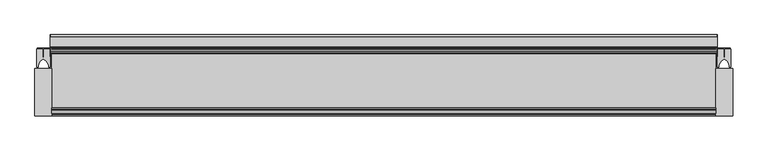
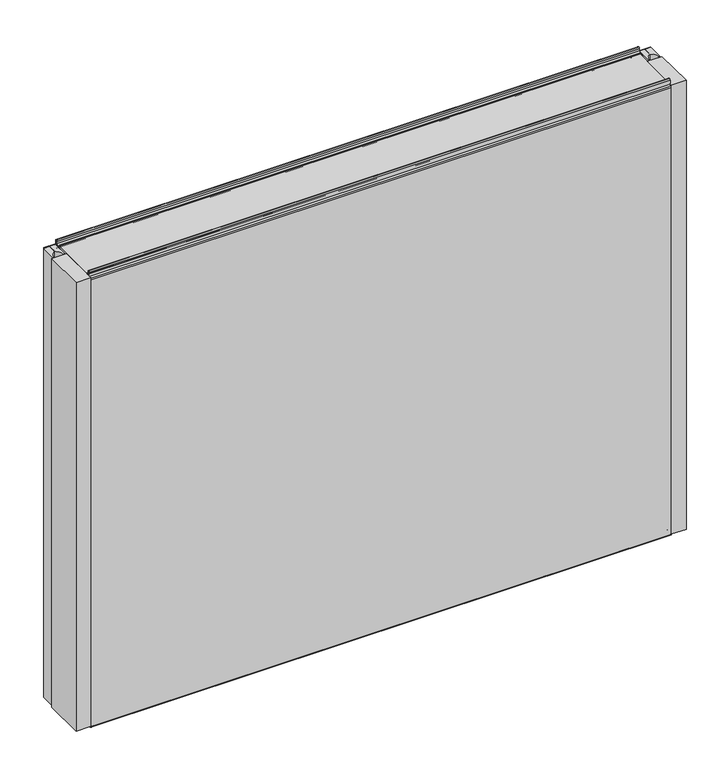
"""IFC4 building model written with IfcOpenShell, lengths in millimetres: plate geometry, Fronttop : Fronttop 150/1000."""

from ifc_helpers import new_model, si_unit, point, frame, frame_2d, origin, origin_with_axes, place, context, project, spatial, polyline, circle_curve, trimmed, segment, composite_curve, outline, extrude, source, transform, mapped, element, save
from ifc_brep_helpers import plane_surface, cylinder_surface, revolved_surface, advanced_brep


def plate_292bbd3f(model_context):
    return source(origin(), model_context, "Body", "SolidModel", [
        advanced_brep(
        [(-614.0, 124.0, 1008.0), (-614.0, 121.0, 1008.0), (-614.0, 121.0, 1004.0), (-614.0, 117.0, 1000.0), (-614.0, 115.0, 1000.0), (-614.0, 115.0, 1001.0), (-614.0, 117.0, 1001.0), (-614.0, 120.0, 1004.0), (-614.0, 120.0, 1008.0), (-614.0, 125.0, 1008.0), (-614.0, 125.0, 1000.0), (-614.0, 124.0, 1000.0), (614.0, 125.0, 1008.0), (614.0, 120.0, 1008.0), (614.0, 120.0, 1004.0), (614.0, 117.0, 1001.0), (614.0, 115.0, 1001.0), (614.0, 115.0, 1000.0), (614.0, 117.0, 1000.0), (614.0, 121.0, 1004.0), (614.0, 121.0, 1008.0), (614.0, 124.0, 1008.0), (614.0, 124.0, 1000.0), (614.0, 125.0, 1000.0), (-614.0, 117.0, 2.0), (614.0, 117.0, 2.0), (614.0, 115.0, 2.0), (-614.0, 115.0, 2.0), (-614.0, 119.0, 4.0), (614.0, 119.0, 4.0), (-614.0, 119.0, 8.0), (614.0, 119.0, 8.0), (-614.0, 126.0, 8.0), (614.0, 126.0, 8.0), (-614.0, 126.0, 0.0), (614.0, 126.0, 0.0), (-614.0, 129.0, -3.0), (614.0, 129.0, -3.0), (-614.0, 125.0, -3.0), (-615.0, 125.0, -3.0), (-615.0, 147.0, -3.0), (-614.0, 147.0, -3.0), (614.0, 147.0, -3.0), (615.0, 147.0, -3.0), (615.0, 125.0, -3.0), (614.0, 125.0, -3.0), (-614.0, 150.0, 0.0), (614.0, 150.0, 0.0), (-615.0, 150.0, 0.0), (-615.0, 150.0, 969.0), (-614.0, 150.0, 969.0), (614.0, 150.0, 969.0), (615.0, 150.0, 969.0), (615.0, 150.0, 0.0), (-614.0, 147.0, 972.0), (614.0, 147.0, 972.0), (-615.0, 147.0, 972.0), (-615.0, 128.0, 972.0), (-614.0, 128.0, 972.0), (614.0, 128.0, 972.0), (615.0, 128.0, 972.0), (615.0, 147.0, 972.0), (-614.0, 125.0, 975.0), (614.0, 125.0, 975.0), (-615.0, 125.0, 975.0), (-615.0, 125.0, 1000.0), (615.0, 125.0, 1000.0), (615.0, 125.0, 975.0), (-614.0, 124.0, 975.0), (614.0, 124.0, 975.0), (-614.0, 128.0, 971.0), (614.0, 128.0, 971.0), (-614.0, 147.0, 971.0), (614.0, 147.0, 971.0), (-614.0, 149.0, 969.0), (614.0, 149.0, 969.0), (-614.0, 149.0, 0.0), (614.0, 149.0, 0.0), (-614.0, 147.0, -2.0), (614.0, 147.0, -2.0), (-614.0, 129.0, -2.0), (614.0, 129.0, -2.0), (-614.0, 127.0, 0.0), (614.0, 127.0, 0.0), (-614.0, 127.0, 8.0), (614.0, 127.0, 8.0), (-614.0, 118.0, 8.0), (614.0, 118.0, 8.0), (-614.0, 118.0, 4.0), (614.0, 118.0, 4.0), (-614.0, 117.0, 3.0), (614.0, 117.0, 3.0), (-614.0, 115.0, 3.0), (614.0, 115.0, 3.0), (615.0, 110.0, 1000.0), (615.0, 110.0, 0.0), (615.0, 125.0, 0.0), (614.0, 125.0, 0.0), (614.0, 110.0, 0.0), (614.0, 110.0, 1000.0), (-615.0, 125.0, 0.0), (-615.0, 110.0, 0.0), (-615.0, 110.0, 1000.0), (-614.0, 110.0, 1000.0), (-614.0, 110.0, 0.0), (-614.0, 125.0, 0.0)],
        [
            (0, 1, circle_curve(frame((-614.0, 122.5, 1008.0), z_axis=(1.0, 0.0, 0.0), x_axis=(0.0, -1.0, 0.0)), 1.5)),
            (1, 2),
            (2, 3, circle_curve(frame((-614.0, 117.0, 1004.0), z_axis=(-1.0, 0.0, 0.0), x_axis=(0.0, -1.0, 0.0)), 4.0)),
            (3, 4),
            (4, 5),
            (5, 6),
            (6, 7, circle_curve(frame((-614.0, 117.0, 1004.0), z_axis=(1.0, 0.0, 0.0), x_axis=(0.0, -1.0, 0.0)), 3.0)),
            (7, 8),
            (8, 9, circle_curve(frame((-614.0, 122.5, 1008.0), z_axis=(-1.0, 0.0, 0.0), x_axis=(0.0, -1.0, 0.0)), 2.5)),
            (9, 10),
            (10, 11),
            (11, 0),
            (12, 13, circle_curve(frame((614.0, 122.5, 1008.0), z_axis=(1.0, 0.0, 0.0), x_axis=(0.0, -1.0, 0.0)), 2.5)),
            (13, 14),
            (14, 15, circle_curve(frame((614.0, 117.0, 1004.0), z_axis=(-1.0, 0.0, 0.0), x_axis=(0.0, -1.0, 0.0)), 3.0)),
            (15, 16),
            (16, 17),
            (17, 18),
            (18, 19, circle_curve(frame((614.0, 117.0, 1004.0), z_axis=(1.0, 0.0, 0.0), x_axis=(0.0, -1.0, 0.0)), 4.0)),
            (19, 20),
            (20, 21, circle_curve(frame((614.0, 122.5, 1008.0), z_axis=(-1.0, 0.0, 0.0), x_axis=(0.0, -1.0, 0.0)), 1.5)),
            (21, 22),
            (22, 23),
            (23, 12),
            (24, 25),
            (25, 26),
            (26, 27),
            (27, 24),
            (24, 28, circle_curve(frame((-614.0, 117.0, 4.0), z_axis=(1.0, 0.0, 0.0), x_axis=(0.0, -1.0, 0.0)), 2.0)),
            (28, 29),
            (29, 25, circle_curve(frame((614.0, 117.0, 4.0), z_axis=(-1.0, 0.0, 0.0), x_axis=(0.0, -1.0, 0.0)), 2.0)),
            (28, 30),
            (30, 31),
            (31, 29),
            (30, 32, circle_curve(frame((-614.0, 122.5, 8.0), z_axis=(-1.0, 0.0, 0.0), x_axis=(0.0, -1.0, 0.0)), 3.5)),
            (32, 33),
            (33, 31, circle_curve(frame((614.0, 122.5, 8.0), z_axis=(1.0, 0.0, 0.0), x_axis=(0.0, -1.0, 0.0)), 3.5)),
            (32, 34),
            (34, 35),
            (35, 33),
            (34, 36, circle_curve(frame((-614.0, 129.0, 0.0), z_axis=(1.0, 0.0, 0.0), x_axis=(0.0, -1.0, 0.0)), 3.0)),
            (36, 37),
            (37, 35, circle_curve(frame((614.0, 129.0, 0.0), z_axis=(-1.0, 0.0, 0.0), x_axis=(0.0, -1.0, 0.0)), 3.0)),
            (36, 38),
            (38, 39),
            (39, 40),
            (40, 41),
            (41, 42),
            (42, 43),
            (43, 44),
            (44, 45),
            (45, 37),
            (41, 46, circle_curve(frame((-614.0, 147.0, 0.0), z_axis=(1.0, 0.0, 0.0), x_axis=(0.0, -1.0, 0.0)), 3.0)),
            (46, 47),
            (47, 42, circle_curve(frame((614.0, 147.0, 0.0), z_axis=(-1.0, 0.0, 0.0), x_axis=(0.0, -1.0, 0.0)), 3.0)),
            (46, 48),
            (48, 49),
            (49, 50),
            (50, 51),
            (51, 52),
            (52, 53),
            (53, 47),
            (50, 54, circle_curve(frame((-614.0, 147.0, 969.0), z_axis=(1.0, 0.0, 0.0), x_axis=(0.0, -1.0, 0.0)), 3.0)),
            (54, 55),
            (55, 51, circle_curve(frame((614.0, 147.0, 969.0), z_axis=(-1.0, 0.0, 0.0), x_axis=(0.0, -1.0, 0.0)), 3.0)),
            (54, 56),
            (56, 57),
            (57, 58),
            (58, 59),
            (59, 60),
            (60, 61),
            (61, 55),
            (58, 62, circle_curve(frame((-614.0, 128.0, 975.0), z_axis=(-1.0, 0.0, 0.0), x_axis=(0.0, -1.0, 0.0)), 3.0)),
            (62, 63),
            (63, 59, circle_curve(frame((614.0, 128.0, 975.0), z_axis=(1.0, 0.0, 0.0), x_axis=(0.0, -1.0, 0.0)), 3.0)),
            (62, 64),
            (64, 65),
            (65, 10),
            (9, 12),
            (23, 66),
            (66, 67),
            (67, 63),
            (8, 13),
            (7, 14),
            (6, 15),
            (5, 16),
            (4, 17),
            (4, 3),
            (3, 18),
            (18, 17),
            (2, 19),
            (1, 20),
            (0, 21),
            (11, 68),
            (68, 69),
            (69, 22),
            (68, 70, circle_curve(frame((-614.0, 128.0, 975.0), z_axis=(1.0, 0.0, 0.0), x_axis=(0.0, -1.0, 0.0)), 4.0)),
            (70, 71),
            (71, 69, circle_curve(frame((614.0, 128.0, 975.0), z_axis=(-1.0, 0.0, 0.0), x_axis=(0.0, -1.0, 0.0)), 4.0)),
            (70, 72),
            (72, 73),
            (73, 71),
            (72, 74, circle_curve(frame((-614.0, 147.0, 969.0), z_axis=(-1.0, 0.0, 0.0), x_axis=(0.0, -1.0, 0.0)), 2.0)),
            (74, 75),
            (75, 73, circle_curve(frame((614.0, 147.0, 969.0), z_axis=(1.0, 0.0, 0.0), x_axis=(0.0, -1.0, 0.0)), 2.0)),
            (74, 76),
            (76, 77),
            (77, 75),
            (76, 78, circle_curve(frame((-614.0, 147.0, 0.0), z_axis=(-1.0, 0.0, 0.0), x_axis=(0.0, -1.0, 0.0)), 2.0)),
            (78, 79),
            (79, 77, circle_curve(frame((614.0, 147.0, 0.0), z_axis=(1.0, 0.0, 0.0), x_axis=(0.0, -1.0, 0.0)), 2.0)),
            (78, 80),
            (80, 81),
            (81, 79),
            (80, 82, circle_curve(frame((-614.0, 129.0, 0.0), z_axis=(-1.0, 0.0, 0.0), x_axis=(0.0, -1.0, 0.0)), 2.0)),
            (82, 83),
            (83, 81, circle_curve(frame((614.0, 129.0, 0.0), z_axis=(1.0, 0.0, 0.0), x_axis=(0.0, -1.0, 0.0)), 2.0)),
            (82, 84),
            (84, 85),
            (85, 83),
            (84, 86, circle_curve(frame((-614.0, 122.5, 8.0), z_axis=(1.0, 0.0, 0.0), x_axis=(0.0, -1.0, 0.0)), 4.5)),
            (86, 87),
            (87, 85, circle_curve(frame((614.0, 122.5, 8.0), z_axis=(-1.0, 0.0, 0.0), x_axis=(0.0, -1.0, 0.0)), 4.5)),
            (86, 88),
            (88, 89),
            (89, 87),
            (88, 90, circle_curve(frame((-614.0, 117.0, 4.0), z_axis=(-1.0, 0.0, 0.0), x_axis=(0.0, -1.0, 0.0)), 1.0)),
            (90, 91),
            (91, 89, circle_curve(frame((614.0, 117.0, 4.0), z_axis=(1.0, 0.0, 0.0), x_axis=(0.0, -1.0, 0.0)), 1.0)),
            (90, 92),
            (92, 93),
            (93, 91),
            (26, 93),
            (92, 27),
            (66, 94),
            (94, 95),
            (95, 96),
            (96, 44),
            (43, 53, circle_curve(frame((615.0, 147.0, 0.0), z_axis=(1.0, 0.0, 0.0), x_axis=(0.0, 1.0, 0.0)), 3.0)),
            (52, 61, circle_curve(frame((615.0, 147.0, 969.0), z_axis=(1.0, 0.0, 0.0), x_axis=(0.0, 1.0, 0.0)), 3.0)),
            (60, 67, circle_curve(frame((615.0, 128.0, 975.0), z_axis=(-1.0, 0.0, 0.0), x_axis=(0.0, 1.0, 0.0)), 3.0)),
            (45, 97),
            (97, 98),
            (98, 99),
            (99, 17),
            (18, 22),
            (99, 94),
            (98, 95),
            (97, 96),
            (64, 57, circle_curve(frame((-615.0, 128.0, 975.0), z_axis=(1.0, 0.0, 0.0), x_axis=(0.0, 1.0, 0.0)), 3.0)),
            (56, 49, circle_curve(frame((-615.0, 147.0, 969.0), z_axis=(-1.0, 0.0, 0.0), x_axis=(0.0, 1.0, 0.0)), 3.0)),
            (48, 40, circle_curve(frame((-615.0, 147.0, 0.0), z_axis=(-1.0, 0.0, 0.0), x_axis=(0.0, 1.0, 0.0)), 3.0)),
            (39, 100),
            (100, 101),
            (101, 102),
            (102, 65),
            (103, 104),
            (104, 105),
            (105, 38),
            (11, 3),
            (4, 103),
            (102, 103),
            (101, 104),
            (100, 105),
        ],
        [
            plane_surface(frame((-614.0, 0.0, 0.0), z_axis=(-1.0, 0.0, 0.0), x_axis=(0.0, 0.0, 1.0))),
            plane_surface(frame((614.0, 0.0, 0.0), z_axis=(1.0, 0.0, 0.0), x_axis=(0.0, 0.0, 1.0))),
            plane_surface(frame((-614.0, 117.0, 2.0), z_axis=(0.0, 0.0, -1.0), x_axis=(1.0, 0.0, 0.0))),
            cylinder_surface(frame((-614.0, 117.0, 4.0), z_axis=(-1.0, 0.0, 0.0), x_axis=(0.0, -1.0, 0.0)), 2.0),
            plane_surface(frame((-614.0, 119.0, 8.0), z_axis=(0.0, 1.0, 0.0), x_axis=(1.0, 0.0, 0.0))),
            revolved_surface(polyline([(614.0, 119.0, 8.0), (-614.0, 119.0, 8.0)]), (-614.0, 122.5, 8.0), (1.0, 0.0, 0.0)),
            plane_surface(frame((-614.0, 126.0, 0.0), z_axis=(0.0, -1.0, 0.0), x_axis=(1.0, 0.0, 0.0))),
            cylinder_surface(frame((-614.0, 129.0, 0.0), z_axis=(-1.0, 0.0, 0.0), x_axis=(0.0, -1.0, 0.0)), 3.0),
            plane_surface(frame((-614.0, 147.0, -3.0), z_axis=(0.0, 0.0, -1.0), x_axis=(1.0, 0.0, 0.0))),
            cylinder_surface(frame((-614.0, 147.0, 0.0), z_axis=(-1.0, 0.0, 0.0), x_axis=(0.0, -1.0, 0.0)), 3.0),
            plane_surface(frame((-614.0, 150.0, 969.0), z_axis=(0.0, 1.0, 0.0), x_axis=(1.0, 0.0, 0.0))),
            cylinder_surface(frame((-614.0, 147.0, 969.0), z_axis=(-1.0, 0.0, 0.0), x_axis=(0.0, -1.0, 0.0)), 3.0),
            plane_surface(frame((-614.0, 128.0, 972.0), z_axis=(0.0, 0.0, 1.0), x_axis=(1.0, 0.0, 0.0))),
            revolved_surface(polyline([(614.0, 125.0, 975.0), (-614.0, 125.0, 975.0)]), (-614.0, 128.0, 975.0), (1.0, 0.0, 0.0)),
            plane_surface(frame((-614.0, 125.0, 1008.0), z_axis=(0.0, 1.0, 0.0), x_axis=(1.0, 0.0, 0.0))),
            cylinder_surface(frame((-614.0, 122.5, 1008.0), z_axis=(-1.0, 0.0, 0.0), x_axis=(0.0, -1.0, 0.0)), 2.5),
            plane_surface(frame((-614.0, 120.0, 1004.0), z_axis=(0.0, -1.0, 0.0), x_axis=(1.0, 0.0, 0.0))),
            revolved_surface(polyline([(614.0, 114.0, 1004.0), (-614.0, 114.0, 1004.0)]), (-614.0, 117.0, 1004.0), (1.0, 0.0, 0.0)),
            plane_surface(frame((-614.0, 115.0, 1001.0), z_axis=(0.0, 0.0, 1.0), x_axis=(1.0, 0.0, 0.0))),
            plane_surface(frame((-614.0, 115.0, 1000.0), z_axis=(0.0, -1.0, 0.0), x_axis=(1.0, 0.0, 0.0))),
            plane_surface(frame((-614.0, 117.0, 1000.0), z_axis=(0.0, 0.0, -1.0), x_axis=(1.0, 0.0, 0.0))),
            cylinder_surface(frame((-614.0, 117.0, 1004.0), z_axis=(-1.0, 0.0, 0.0), x_axis=(0.0, -1.0, 0.0)), 4.0),
            plane_surface(frame((-614.0, 121.0, 1008.0), z_axis=(0.0, 1.0, 0.0), x_axis=(1.0, 0.0, 0.0))),
            revolved_surface(polyline([(614.0, 121.0, 1008.0), (-614.0, 121.0, 1008.0)]), (-614.0, 122.5, 1008.0), (1.0, 0.0, 0.0)),
            plane_surface(frame((-614.0, 124.0, 975.0), z_axis=(0.0, -1.0, 0.0), x_axis=(1.0, 0.0, 0.0))),
            cylinder_surface(frame((-614.0, 128.0, 975.0), z_axis=(-1.0, 0.0, 0.0), x_axis=(0.0, -1.0, 0.0)), 4.0),
            plane_surface(frame((-614.0, 147.0, 971.0), z_axis=(0.0, 0.0, -1.0), x_axis=(1.0, 0.0, 0.0))),
            revolved_surface(polyline([(614.0, 145.0, 969.0), (-614.0, 145.0, 969.0)]), (-614.0, 147.0, 969.0), (1.0, 0.0, 0.0)),
            plane_surface(frame((-614.0, 149.0, 0.0), z_axis=(0.0, -1.0, 0.0), x_axis=(1.0, 0.0, 0.0))),
            revolved_surface(polyline([(614.0, 145.0, 0.0), (-614.0, 145.0, 0.0)]), (-614.0, 147.0, 0.0), (1.0, 0.0, 0.0)),
            plane_surface(frame((-614.0, 129.0, -2.0), z_axis=(0.0, 0.0, 1.0), x_axis=(1.0, 0.0, 0.0))),
            revolved_surface(polyline([(614.0, 127.0, 0.0), (-614.0, 127.0, 0.0)]), (-614.0, 129.0, 0.0), (1.0, 0.0, 0.0)),
            plane_surface(frame((-614.0, 127.0, 8.0), z_axis=(0.0, 1.0, 0.0), x_axis=(1.0, 0.0, 0.0))),
            cylinder_surface(frame((-614.0, 122.5, 8.0), z_axis=(-1.0, 0.0, 0.0), x_axis=(0.0, -1.0, 0.0)), 4.5),
            plane_surface(frame((-614.0, 118.0, 4.0), z_axis=(0.0, -1.0, 0.0), x_axis=(1.0, 0.0, 0.0))),
            revolved_surface(polyline([(614.0, 116.0, 4.0), (-614.0, 116.0, 4.0)]), (-614.0, 117.0, 4.0), (1.0, 0.0, 0.0)),
            plane_surface(frame((-614.0, 115.0, 3.0), z_axis=(0.0, 0.0, 1.0), x_axis=(1.0, 0.0, 0.0))),
            plane_surface(frame((-614.0, 115.0, 2.0), z_axis=(0.0, -1.0, 0.0), x_axis=(1.0, 0.0, 0.0))),
            plane_surface(frame((615.0, 125.0, 1000.0), z_axis=(1.0, 0.0, 0.0), x_axis=(0.0, -1.0, 0.0))),
            plane_surface(frame((614.0, 125.0, 1000.0), z_axis=(-1.0, 0.0, 0.0), x_axis=(0.0, 1.0, 0.0))),
            plane_surface(frame((615.0, 125.0, 1000.0), z_axis=(0.0, 0.0, 1.0), x_axis=(-1.0, 0.0, 0.0))),
            plane_surface(frame((615.0, 110.0, 1000.0), z_axis=(0.0, -1.0, 0.0), x_axis=(-1.0, 0.0, 0.0))),
            plane_surface(frame((615.0, 110.0, 0.0), z_axis=(0.0, 0.0, -1.0), x_axis=(-1.0, 0.0, 0.0))),
            cylinder_surface(frame((614.0, 147.0, 0.0), z_axis=(1.0, 0.0, 0.0), x_axis=(0.0, 1.0, 0.0)), 3.0),
            cylinder_surface(frame((614.0, 147.0, 969.0), z_axis=(1.0, 0.0, 0.0), x_axis=(0.0, 1.0, 0.0)), 3.0),
            revolved_surface(polyline([(614.0, 131.0, 975.0), (615.0, 131.0, 975.0)]), (614.0, 128.0, 975.0), (-1.0, 0.0, 0.0)),
            plane_surface(frame((-615.0, 125.0, 1000.0), z_axis=(-1.0, 0.0, 0.0), x_axis=(0.0, 1.0, 0.0))),
            plane_surface(frame((-614.0, 125.0, 1000.0), z_axis=(1.0, 0.0, 0.0), x_axis=(0.0, -1.0, 0.0))),
            plane_surface(frame((-614.0, 125.0, 1000.0), z_axis=(0.0, 0.0, 1.0), x_axis=(-1.0, 0.0, 0.0))),
            plane_surface(frame((-614.0, 110.0, 1000.0), z_axis=(0.0, -1.0, 0.0), x_axis=(-1.0, 0.0, 0.0))),
            plane_surface(frame((-614.0, 110.0, 0.0), z_axis=(0.0, 0.0, -1.0), x_axis=(-1.0, 0.0, 0.0))),
            cylinder_surface(frame((-615.0, 147.0, 0.0), z_axis=(1.0, 0.0, 0.0), x_axis=(0.0, 1.0, 0.0)), 3.0),
            cylinder_surface(frame((-615.0, 147.0, 969.0), z_axis=(1.0, 0.0, 0.0), x_axis=(0.0, 1.0, 0.0)), 3.0),
            revolved_surface(polyline([(-615.0, 131.0, 975.0), (-614.0, 131.0, 975.0)]), (-615.0, 128.0, 975.0), (-1.0, 0.0, 0.0)),
            plane_surface(frame((615.0, 125.0, 0.0), z_axis=(0.0, -1.0, 0.0), x_axis=(-1.0, 0.0, 0.0))),
            plane_surface(frame((-614.0, 125.0, 0.0), z_axis=(0.0, -1.0, 0.0), x_axis=(-1.0, 0.0, 0.0))),
        ],
        [
            (0, [[1, 2, 3, 4, 5, 6, 7, 8, 9, 10, 11, 12]]),
            (1, [[13, 14, 15, 16, 17, 18, 19, 20, 21, 22, 23, 24]]),
            (2, [[25, 26, 27, 28]]),
            (3, [[-25, 29, 30, 31]]),
            (4, [[-30, 32, 33, 34]]),
            (5, [[-33, 35, 36, 37]]),
            (6, [[-36, 38, 39, 40]]),
            (7, [[-39, 41, 42, 43]]),
            (8, [[-42, 44, 45, 46, 47, 48, 49, 50, 51, 52]]),
            (9, [[-48, 53, 54, 55]]),
            (10, [[-54, 56, 57, 58, 59, 60, 61, 62]]),
            (11, [[-59, 63, 64, 65]]),
            (12, [[-64, 66, 67, 68, 69, 70, 71, 72]]),
            (13, [[-69, 73, 74, 75]]),
            (14, [[-74, 76, 77, 78, -10, 79, -24, 80, 81, 82]]),
            (15, [[-9, 83, -13, -79]]),
            (16, [[-8, 84, -14, -83]]),
            (17, [[-7, 85, -15, -84]]),
            (18, [[-6, 86, -16, -85]]),
            (19, [[-5, 87, -17, -86]]),
            (20, [[-87, 88, 89, 90]]),
            (21, [[-3, 91, -19, -89]]),
            (22, [[-2, 92, -20, -91]]),
            (23, [[-1, 93, -21, -92]]),
            (24, [[-93, -12, 94, 95, 96, -22]]),
            (25, [[-95, 97, 98, 99]]),
            (26, [[-98, 100, 101, 102]]),
            (27, [[-101, 103, 104, 105]]),
            (28, [[-104, 106, 107, 108]]),
            (29, [[-107, 109, 110, 111]]),
            (30, [[-110, 112, 113, 114]]),
            (31, [[-113, 115, 116, 117]]),
            (32, [[-116, 118, 119, 120]]),
            (33, [[-119, 121, 122, 123]]),
            (34, [[-122, 124, 125, 126]]),
            (35, [[-125, 127, 128, 129]]),
            (36, [[-128, 130, 131, 132]]),
            (37, [[-27, 133, -131, 134]]),
            (38, [[135, 136, 137, 138, -50, 139, -61, 140, -71, 141, -81]]),
            (39, [[142, 143, 144, 145, -90, 146, -96, -99, -102, -105, -108, -111, -114, -117, -120, -123, -126, -129, -132, -133, -26, -31, -34, -37, -40, -43, -52]]),
            (40, [[-135, -80, -23, -146, -18, -145, 147]]),
            (41, [[-136, -147, -144, 148]]),
            (42, [[-137, -148, -143, 149]]),
            (43, [[-139, -49, -55, -62]]),
            (44, [[-140, -60, -65, -72]]),
            (45, [[-141, -70, -75, -82]]),
            (46, [[-77, 150, -67, 151, -57, 152, -46, 153, 154, 155, 156]]),
            (47, [[157, 158, 159, -44, -41, -38, -35, -32, -29, -28, -134, -130, -127, -124, -121, -118, -115, -112, -109, -106, -103, -100, -97, -94, 160, -88, 161]]),
            (48, [[-156, 162, -161, -4, -160, -11, -78]]),
            (49, [[-155, 163, -157, -162]]),
            (50, [[-154, 164, -158, -163]]),
            (51, [[-152, -56, -53, -47]]),
            (52, [[-151, -66, -63, -58]]),
            (53, [[-150, -76, -73, -68]]),
            (54, [[-138, -149, -142, -51]]),
            (55, [[-153, -45, -159, -164]]),
        ],
    ),
        extrude(outline(composite_curve([segment(polyline([(-640.0001545, 123.5), (-628.25, 123.5), (-628.25, 107.5), (-626.75, 107.5), (-626.75, 123.5), (-614.9998455, 123.5), (-614.9998455, 90.0), (-617.75, 90.0), (-617.75, 92.5)]), True, "CONTINUOUS"), segment(trimmed(circle_curve(frame_2d((-635.5338021, 89.3183984)), 18.0661619), [point((-617.75, 92.5))], [point((-627.5, 105.5))], True, "CARTESIAN"), True, "CONTINUOUS"), segment(trimmed(circle_curve(frame_2d((-619.4661979, 89.3183984)), 18.0661619), [point((-627.5, 105.5))], [point((-637.25, 92.5))], True, "CARTESIAN"), True, "CONTINUOUS"), segment(polyline([(-637.25, 92.5), (-637.25, 90.0), (-640.0001545, 90.0), (-640.0001545, 123.5)]), True, "CONTINUOUS")], self_intersect=False)), origin_with_axes(), (0.0, 0.0, 1.0), 1000.0),
        extrude(outline(polyline([(-612.0, 0.0), (-643.0, 0.0), (-643.0, 88.0), (-612.0, 88.0), (-612.0, 0.0)])), origin_with_axes(), (0.0, 0.0, 1.0), 1000.0),
        extrude(outline(polyline([(-639.0051154, 125.0), (-615.9948846, 125.0), (-615.9948846, 123.5), (-626.8497504, 123.5), (-626.8497504, 109.0759655), (-628.15, 109.0759655), (-628.15, 123.5), (-639.0051154, 123.5), (-639.0051154, 125.0)])), origin_with_axes(), (0.0, 0.0, 1.0), 1000.0),
        extrude(outline(composite_curve([segment(polyline([(614.9998455, 123.5), (626.75, 123.5), (626.75, 107.5), (628.25, 107.5), (628.25, 123.5), (640.0001545, 123.5), (640.0001545, 90.0), (637.25, 90.0), (637.25, 92.5)]), True, "CONTINUOUS"), segment(trimmed(circle_curve(frame_2d((619.4661979, 89.3183984)), 18.0661619), [point((637.25, 92.5))], [point((627.5, 105.5))], True, "CARTESIAN"), True, "CONTINUOUS"), segment(trimmed(circle_curve(frame_2d((635.5338021, 89.3183984)), 18.0661619), [point((627.5, 105.5))], [point((617.75, 92.5))], True, "CARTESIAN"), True, "CONTINUOUS"), segment(polyline([(617.75, 92.5), (617.75, 90.0), (614.9998455, 90.0), (614.9998455, 123.5)]), True, "CONTINUOUS")], self_intersect=False)), origin_with_axes(), (0.0, 0.0, 1.0), 1000.0),
        extrude(outline(polyline([(643.0, 0.0), (612.0, 0.0), (612.0, 88.0), (643.0, 88.0), (643.0, 0.0)])), origin_with_axes(), (0.0, 0.0, 1.0), 1000.0),
        extrude(outline(polyline([(615.9948846, 125.0), (639.0051154, 125.0), (639.0051154, 123.5), (628.1502496, 123.5), (628.1502496, 109.0759655), (626.85, 109.0759655), (626.85, 123.5), (615.9948846, 123.5), (615.9948846, 125.0)])), origin_with_axes(), (0.0, 0.0, 1.0), 1000.0),
        advanced_brep(
        [(-612.0, 13.0, 1001.0), (-612.0, 15.0, 1001.0), (-612.0, 15.0, 1000.0), (-612.0, 13.0, 1000.0), (-612.0, 9.0, 1004.0), (-612.0, 9.0, 1008.0), (-612.0, 6.0, 1008.0), (-612.0, 6.0, 999.5), (-612.0, 2.1134897, 996.0214069), (-612.0, 1.0, 995.0), (-612.0, 1.0, -0.5), (-612.0, 3.0, -0.5), (-612.0, 3.0, 8.0), (-612.0, 12.0, 8.0), (-612.0, 12.0, 4.0), (-612.0, 13.0, 3.0), (-612.0, 15.0, 3.0), (-612.0, 15.0, 2.0), (-612.0, 13.0, 2.0), (-612.0, 11.0, 4.0), (-612.0, 11.0, 8.0), (-612.0, 4.0, 8.0), (-612.0, 4.0, -0.5), (-612.0, 0.0, -0.5), (-612.0, 0.0, 995.0), (-612.0, 2.220863, 996.9877675), (-612.0, 5.0, 999.5), (-612.0, 5.0, 1008.0), (-612.0, 10.0, 1008.0), (-612.0, 10.0, 1004.0), (612.0, 13.0, 1001.0), (612.0, 10.0, 1004.0), (612.0, 10.0, 1008.0), (612.0, 5.0, 1008.0), (612.0, 5.0, 999.5), (612.0, 2.2239212, 997.0152907), (612.0, 0.0, 995.0), (612.0, 0.0, -0.5), (612.0, 4.0, -0.5), (612.0, 4.0, 8.0), (612.0, 11.0, 8.0), (612.0, 11.0, 4.0), (612.0, 13.0, 2.0), (612.0, 15.0, 2.0), (612.0, 15.0, 3.0), (612.0, 13.0, 3.0), (612.0, 12.0, 4.0), (612.0, 12.0, 8.0), (612.0, 3.0, 8.0), (612.0, 3.0, -0.5), (612.0, 1.0, -0.5), (612.0, 1.0, 995.0), (612.0, 2.1104315, 995.9938837), (612.0, 6.0, 999.5), (612.0, 6.0, 1008.0), (612.0, 9.0, 1008.0), (612.0, 9.0, 1004.0), (612.0, 13.0, 1000.0), (612.0, 15.0, 1000.0), (612.0, 15.0, 1001.0)],
        [
            (0, 1),
            (1, 2),
            (2, 3),
            (3, 4, circle_curve(frame((-612.0, 13.0, 1004.0), z_axis=(-1.0, 0.0, 0.0), x_axis=(0.0, -1.0, 0.0)), 4.0)),
            (4, 5),
            (5, 6, circle_curve(frame((-612.0, 7.5, 1008.0), z_axis=(1.0, 0.0, 0.0), x_axis=(0.0, -1.0, 0.0)), 1.5)),
            (6, 7),
            (7, 8, circle_curve(frame((-612.0, 2.5, 999.5), z_axis=(-1.0, 0.0, 0.0), x_axis=(0.0, -1.0, 0.0)), 3.5)),
            (8, 9, circle_curve(frame((-612.0, 2.0, 995.0), z_axis=(1.0, 0.0, 0.0), x_axis=(0.0, -1.0, 0.0)), 1.0)),
            (9, 10),
            (10, 11, circle_curve(frame((-612.0, 2.0, -0.5), z_axis=(1.0, 0.0, 0.0), x_axis=(0.0, -1.0, 0.0)), 1.0)),
            (11, 12),
            (12, 13, circle_curve(frame((-612.0, 7.5, 8.0), z_axis=(-1.0, 0.0, 0.0), x_axis=(0.0, -1.0, 0.0)), 4.5)),
            (13, 14),
            (14, 15, circle_curve(frame((-612.0, 13.0, 4.0), z_axis=(1.0, 0.0, 0.0), x_axis=(0.0, -1.0, 0.0)), 1.0)),
            (15, 16),
            (16, 17),
            (17, 18),
            (18, 19, circle_curve(frame((-612.0, 13.0, 4.0), z_axis=(-1.0, 0.0, 0.0), x_axis=(0.0, -1.0, 0.0)), 2.0)),
            (19, 20),
            (20, 21, circle_curve(frame((-612.0, 7.5, 8.0), z_axis=(1.0, 0.0, 0.0), x_axis=(0.0, -1.0, 0.0)), 3.5)),
            (21, 22),
            (22, 23, circle_curve(frame((-612.0, 2.0, -0.5), z_axis=(-1.0, 0.0, 0.0), x_axis=(0.0, -1.0, 0.0)), 2.0)),
            (23, 24),
            (24, 25, circle_curve(frame((-612.0, 2.0, 995.0), z_axis=(-1.0, 0.0, 0.0), x_axis=(0.0, -1.0, 0.0)), 2.0)),
            (25, 26, circle_curve(frame((-612.0, 2.5, 999.5), z_axis=(1.0, 0.0, 0.0), x_axis=(0.0, -1.0, 0.0)), 2.5)),
            (26, 27),
            (27, 28, circle_curve(frame((-612.0, 7.5, 1008.0), z_axis=(-1.0, 0.0, 0.0), x_axis=(0.0, -1.0, 0.0)), 2.5)),
            (28, 29),
            (29, 0, circle_curve(frame((-612.0, 13.0, 1004.0), z_axis=(1.0, 0.0, 0.0), x_axis=(0.0, -1.0, 0.0)), 3.0)),
            (30, 31, circle_curve(frame((612.0, 13.0, 1004.0), z_axis=(-1.0, 0.0, 0.0), x_axis=(0.0, -1.0, 0.0)), 3.0)),
            (31, 32),
            (32, 33, circle_curve(frame((612.0, 7.5, 1008.0), z_axis=(1.0, 0.0, 0.0), x_axis=(0.0, -1.0, 0.0)), 2.5)),
            (33, 34),
            (34, 35, circle_curve(frame((612.0, 2.5, 999.5), z_axis=(-1.0, 0.0, 0.0), x_axis=(0.0, -1.0, 0.0)), 2.5)),
            (35, 36, circle_curve(frame((612.0, 2.0, 995.0), z_axis=(1.0, 0.0, 0.0), x_axis=(0.0, -1.0, 0.0)), 2.0)),
            (36, 37),
            (37, 38, circle_curve(frame((612.0, 2.0, -0.5), z_axis=(1.0, 0.0, 0.0), x_axis=(0.0, -1.0, 0.0)), 2.0)),
            (38, 39),
            (39, 40, circle_curve(frame((612.0, 7.5, 8.0), z_axis=(-1.0, 0.0, 0.0), x_axis=(0.0, -1.0, 0.0)), 3.5)),
            (40, 41),
            (41, 42, circle_curve(frame((612.0, 13.0, 4.0), z_axis=(1.0, 0.0, 0.0), x_axis=(0.0, -1.0, 0.0)), 2.0)),
            (42, 43),
            (43, 44),
            (44, 45),
            (45, 46, circle_curve(frame((612.0, 13.0, 4.0), z_axis=(-1.0, 0.0, 0.0), x_axis=(0.0, -1.0, 0.0)), 1.0)),
            (46, 47),
            (47, 48, circle_curve(frame((612.0, 7.5, 8.0), z_axis=(1.0, 0.0, 0.0), x_axis=(0.0, -1.0, 0.0)), 4.5)),
            (48, 49),
            (49, 50, circle_curve(frame((612.0, 2.0, -0.5), z_axis=(-1.0, 0.0, 0.0), x_axis=(0.0, -1.0, 0.0)), 1.0)),
            (50, 51),
            (51, 52, circle_curve(frame((612.0, 2.0, 995.0), z_axis=(-1.0, 0.0, 0.0), x_axis=(0.0, -1.0, 0.0)), 1.0)),
            (52, 53, circle_curve(frame((612.0, 2.5, 999.5), z_axis=(1.0, 0.0, 0.0), x_axis=(0.0, -1.0, 0.0)), 3.5)),
            (53, 54),
            (54, 55, circle_curve(frame((612.0, 7.5, 1008.0), z_axis=(-1.0, 0.0, 0.0), x_axis=(0.0, -1.0, 0.0)), 1.5)),
            (55, 56),
            (56, 57, circle_curve(frame((612.0, 13.0, 1004.0), z_axis=(1.0, 0.0, 0.0), x_axis=(0.0, -1.0, 0.0)), 4.0)),
            (57, 58),
            (58, 59),
            (59, 30),
            (0, 30),
            (59, 1),
            (58, 2),
            (57, 3),
            (56, 4),
            (55, 5),
            (54, 6),
            (53, 7),
            (52, 8),
            (51, 9),
            (50, 10),
            (49, 11),
            (48, 12),
            (47, 13),
            (46, 14),
            (45, 15),
            (44, 16),
            (43, 17),
            (42, 18),
            (41, 19),
            (40, 20),
            (39, 21),
            (38, 22),
            (37, 23),
            (36, 24),
            (35, 25),
            (34, 26),
            (33, 27),
            (32, 28),
            (31, 29),
        ],
        [
            plane_surface(frame((-612.0, 0.0, 0.0), z_axis=(-1.0, 0.0, 0.0), x_axis=(0.0, 0.0, 1.0))),
            plane_surface(frame((612.0, 0.0, 0.0), z_axis=(1.0, 0.0, 0.0), x_axis=(0.0, 0.0, 1.0))),
            plane_surface(frame((-612.0, 13.0, 1001.0), z_axis=(0.0, 0.0, 1.0), x_axis=(1.0, 0.0, 0.0))),
            plane_surface(frame((-612.0, 15.0, 1001.0), z_axis=(0.0, 1.0, 0.0), x_axis=(1.0, 0.0, 0.0))),
            plane_surface(frame((-612.0, 15.0, 1000.0), z_axis=(0.0, 0.0, -1.0), x_axis=(1.0, 0.0, 0.0))),
            cylinder_surface(frame((-612.0, 13.0, 1004.0), z_axis=(-1.0, 0.0, 0.0), x_axis=(0.0, -1.0, 0.0)), 4.0),
            plane_surface(frame((-612.0, 9.0, 1004.0), z_axis=(0.0, -1.0, 0.0), x_axis=(1.0, 0.0, 0.0))),
            revolved_surface(polyline([(612.0, 6.0, 1008.0), (-612.0, 6.0, 1008.0)]), (-612.0, 7.5, 1008.0), (1.0, 0.0, 0.0)),
            plane_surface(frame((-612.0, 6.0, 1008.0), z_axis=(0.0, 1.0, 0.0), x_axis=(1.0, 0.0, 0.0))),
            cylinder_surface(frame((-612.0, 2.5, 999.5), z_axis=(-1.0, 0.0, 0.0), x_axis=(0.0, -1.0, 0.0)), 3.5),
            revolved_surface(polyline([(612.0, 1.0, 995.0), (-612.0, 1.0, 995.0)]), (-612.0, 2.0, 995.0), (1.0, 0.0, 0.0)),
            plane_surface(frame((-612.0, 1.0, 995.0), z_axis=(0.0, 1.0, 0.0), x_axis=(1.0, 0.0, 0.0))),
            revolved_surface(polyline([(612.0, 1.0, -0.5), (-612.0, 1.0, -0.5)]), (-612.0, 2.0, -0.5), (1.0, 0.0, 0.0)),
            plane_surface(frame((-612.0, 3.0, -0.5), z_axis=(0.0, -1.0, 0.0), x_axis=(1.0, 0.0, 0.0))),
            cylinder_surface(frame((-612.0, 7.5, 8.0), z_axis=(-1.0, 0.0, 0.0), x_axis=(0.0, -1.0, 0.0)), 4.5),
            plane_surface(frame((-612.0, 12.0, 8.0), z_axis=(0.0, 1.0, 0.0), x_axis=(1.0, 0.0, 0.0))),
            revolved_surface(polyline([(612.0, 12.0, 4.0), (-612.0, 12.0, 4.0)]), (-612.0, 13.0, 4.0), (1.0, 0.0, 0.0)),
            plane_surface(frame((-612.0, 13.0, 3.0), z_axis=(0.0, 0.0, 1.0), x_axis=(1.0, 0.0, 0.0))),
            plane_surface(frame((-612.0, 15.0, 3.0), z_axis=(0.0, 1.0, 0.0), x_axis=(1.0, 0.0, 0.0))),
            plane_surface(frame((-612.0, 15.0, 2.0), z_axis=(0.0, 0.0, -1.0), x_axis=(1.0, 0.0, 0.0))),
            cylinder_surface(frame((-612.0, 13.0, 4.0), z_axis=(-1.0, 0.0, 0.0), x_axis=(0.0, -1.0, 0.0)), 2.0),
            plane_surface(frame((-612.0, 11.0, 4.0), z_axis=(0.0, -1.0, 0.0), x_axis=(1.0, 0.0, 0.0))),
            revolved_surface(polyline([(612.0, 4.0, 8.0), (-612.0, 4.0, 8.0)]), (-612.0, 7.5, 8.0), (1.0, 0.0, 0.0)),
            plane_surface(frame((-612.0, 4.0, 8.0), z_axis=(0.0, 1.0, 0.0), x_axis=(1.0, 0.0, 0.0))),
            cylinder_surface(frame((-612.0, 2.0, -0.5), z_axis=(-1.0, 0.0, 0.0), x_axis=(0.0, -1.0, 0.0)), 2.0),
            plane_surface(frame((-612.0, 0.0, -0.5), z_axis=(0.0, -1.0, 0.0), x_axis=(1.0, 0.0, 0.0))),
            cylinder_surface(frame((-612.0, 2.0, 995.0), z_axis=(-1.0, 0.0, 0.0), x_axis=(0.0, -1.0, 0.0)), 2.0),
            revolved_surface(polyline([(612.0, 0.0, 999.5), (-612.0, 0.0, 999.5)]), (-612.0, 2.5, 999.5), (1.0, 0.0, 0.0)),
            plane_surface(frame((-612.0, 5.0, 999.5), z_axis=(0.0, -1.0, 0.0), x_axis=(1.0, 0.0, 0.0))),
            cylinder_surface(frame((-612.0, 7.5, 1008.0), z_axis=(-1.0, 0.0, 0.0), x_axis=(0.0, -1.0, 0.0)), 2.5),
            plane_surface(frame((-612.0, 10.0, 1008.0), z_axis=(0.0, 1.0, 0.0), x_axis=(1.0, 0.0, 0.0))),
            revolved_surface(polyline([(612.0, 10.0, 1004.0), (-612.0, 10.0, 1004.0)]), (-612.0, 13.0, 1004.0), (1.0, 0.0, 0.0)),
        ],
        [
            (0, [[1, 2, 3, 4, 5, 6, 7, 8, 9, 10, 11, 12, 13, 14, 15, 16, 17, 18, 19, 20, 21, 22, 23, 24, 25, 26, 27, 28, 29, 30]]),
            (1, [[31, 32, 33, 34, 35, 36, 37, 38, 39, 40, 41, 42, 43, 44, 45, 46, 47, 48, 49, 50, 51, 52, 53, 54, 55, 56, 57, 58, 59, 60]]),
            (2, [[-1, 61, -60, 62]]),
            (3, [[-2, -62, -59, 63]]),
            (4, [[-3, -63, -58, 64]]),
            (5, [[-4, -64, -57, 65]]),
            (6, [[-5, -65, -56, 66]]),
            (7, [[-6, -66, -55, 67]]),
            (8, [[-7, -67, -54, 68]]),
            (9, [[-8, -68, -53, 69]]),
            (10, [[-9, -69, -52, 70]]),
            (11, [[-10, -70, -51, 71]]),
            (12, [[-11, -71, -50, 72]]),
            (13, [[-12, -72, -49, 73]]),
            (14, [[-13, -73, -48, 74]]),
            (15, [[-14, -74, -47, 75]]),
            (16, [[-15, -75, -46, 76]]),
            (17, [[-16, -76, -45, 77]]),
            (18, [[-17, -77, -44, 78]]),
            (19, [[-18, -78, -43, 79]]),
            (20, [[-19, -79, -42, 80]]),
            (21, [[-20, -80, -41, 81]]),
            (22, [[-21, -81, -40, 82]]),
            (23, [[-22, -82, -39, 83]]),
            (24, [[-23, -83, -38, 84]]),
            (25, [[-24, -84, -37, 85]]),
            (26, [[-25, -85, -36, 86]]),
            (27, [[-26, -86, -35, 87]]),
            (28, [[-27, -87, -34, 88]]),
            (29, [[-28, -88, -33, 89]]),
            (30, [[-29, -89, -32, 90]]),
            (31, [[-30, -90, -31, -61]]),
        ],
    ),
        extrude(outline(composite_curve([segment(polyline([(15.0, 3.0), (13.0, 3.0)]), True, "CONTINUOUS"), segment(trimmed(circle_curve(frame_2d((13.0, 4.0)), 1.0), [point((13.0, 3.0))], [point((12.0, 4.0))], False, "CARTESIAN"), True, "CONTINUOUS"), segment(polyline([(12.0, 4.0), (12.0, 8.0)]), True, "CONTINUOUS"), segment(trimmed(circle_curve(frame_2d((7.5, 8.0)), 4.5), [point((12.0, 8.0))], [point((3.0, 8.0))], True, "CARTESIAN"), True, "CONTINUOUS"), segment(polyline([(3.0, 8.0), (3.0, -0.5)]), True, "CONTINUOUS"), segment(trimmed(circle_curve(frame_2d((2.0, -0.5)), 1.0), [point((3.0, -0.5))], [point((1.0, -0.5))], False, "CARTESIAN"), True, "CONTINUOUS"), segment(polyline([(1.0, -0.5), (1.0, 995.0278643)]), True, "CONTINUOUS"), segment(trimmed(circle_curve(frame_2d((2.0, 995.0278643)), 1.0), [point((1.0, 995.0278643))], [point((2.1111111, 996.0216723))], False, "CARTESIAN"), True, "CONTINUOUS"), segment(trimmed(circle_curve(frame_2d((2.5, 999.5)), 3.5), [point((2.1111111, 996.0216723))], [point((6.0, 999.5))], True, "CARTESIAN"), True, "CONTINUOUS"), segment(polyline([(6.0, 999.5), (6.0, 1008.0)]), True, "CONTINUOUS"), segment(trimmed(circle_curve(frame_2d((7.5, 1008.0)), 1.5), [point((6.0, 1008.0))], [point((9.0, 1008.0))], False, "CARTESIAN"), True, "CONTINUOUS"), segment(polyline([(9.0, 1008.0), (9.0, 1004.0)]), True, "CONTINUOUS"), segment(trimmed(circle_curve(frame_2d((13.0, 1004.0)), 4.0), [point((9.0, 1004.0))], [point((13.0, 1000.0))], True, "CARTESIAN"), True, "CONTINUOUS"), segment(polyline([(13.0, 1000.0), (117.0, 1000.0)]), True, "CONTINUOUS"), segment(trimmed(circle_curve(frame_2d((117.0, 1004.0)), 4.0), [point((117.0, 1000.0))], [point((121.0, 1004.0))], True, "CARTESIAN"), True, "CONTINUOUS"), segment(polyline([(121.0, 1004.0), (121.0, 1008.0)]), True, "CONTINUOUS"), segment(trimmed(circle_curve(frame_2d((122.5, 1008.0)), 1.5), [point((121.0, 1008.0))], [point((124.0, 1008.0))], False, "CARTESIAN"), True, "CONTINUOUS"), segment(polyline([(124.0, 1008.0), (124.0, 975.0)]), True, "CONTINUOUS"), segment(trimmed(circle_curve(frame_2d((128.0, 975.0)), 4.0), [point((124.0, 975.0))], [point((128.0, 971.0))], True, "CARTESIAN"), True, "CONTINUOUS"), segment(polyline([(128.0, 971.0), (147.0, 971.0)]), True, "CONTINUOUS"), segment(trimmed(circle_curve(frame_2d((147.0, 969.0)), 2.0), [point((147.0, 971.0))], [point((149.0, 969.0))], False, "CARTESIAN"), True, "CONTINUOUS"), segment(polyline([(149.0, 969.0), (149.0, 0.0)]), True, "CONTINUOUS"), segment(trimmed(circle_curve(frame_2d((147.0, 0.0)), 2.0), [point((149.0, 0.0))], [point((147.0, -2.0))], False, "CARTESIAN"), True, "CONTINUOUS"), segment(polyline([(147.0, -2.0), (129.0, -2.0)]), True, "CONTINUOUS"), segment(trimmed(circle_curve(frame_2d((129.0, 0.0)), 2.0), [point((129.0, -2.0))], [point((127.0, 0.0))], False, "CARTESIAN"), True, "CONTINUOUS"), segment(polyline([(127.0, 0.0), (127.0, 8.0)]), True, "CONTINUOUS"), segment(trimmed(circle_curve(frame_2d((122.5, 8.0)), 4.5), [point((127.0, 8.0))], [point((118.0, 8.0))], True, "CARTESIAN"), True, "CONTINUOUS"), segment(polyline([(118.0, 8.0), (118.0, 4.0)]), True, "CONTINUOUS"), segment(trimmed(circle_curve(frame_2d((117.0, 4.0)), 1.0), [point((118.0, 4.0))], [point((117.0, 3.0))], False, "CARTESIAN"), True, "CONTINUOUS"), segment(polyline([(117.0, 3.0), (115.0, 3.0), (115.0, 0.0), (15.0, 0.0), (15.0, 3.0)]), True, "CONTINUOUS")], self_intersect=False)), frame((-612.0, 0.0, 0.0), z_axis=(1.0, 0.0, 0.0), x_axis=(0.0, 1.0, 0.0)), (0.0, 0.0, 1.0), 1224.0),
    ])


if __name__ == "__main__":
    model = new_model("IFC4")
    model_context = context("Model", 3, world=origin())
    ifc_project = project(units=[si_unit("LENGTHUNIT", "METRE", prefix="MILLI")], contexts=[model_context])
    site = spatial("IfcSite", under=ifc_project)
    building = spatial("IfcBuilding", under=site)
    placement = place(None, origin())
    plate_shape = plate_292bbd3f(model_context)
    element("IfcPlate", 1, ObjectType="Fronttop : Fronttop 150/1000", at=placement, inside=building, context=model_context, shape_type="MappedRepresentation", body=[
        mapped(plate_shape, transform((0.0, 0.0, 0.0), x_axis=(1.0, 0.0, 0.0), y_axis=(0.0, 1.0, 0.0), z_axis=(0.0, 0.0, 1.0))),
    ])
    save(model, "model.ifc")
